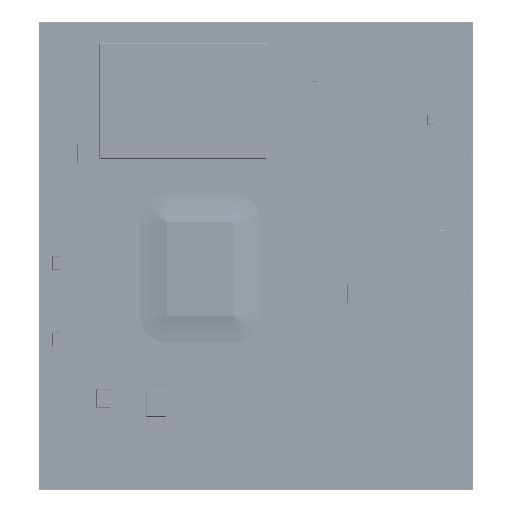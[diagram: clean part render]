
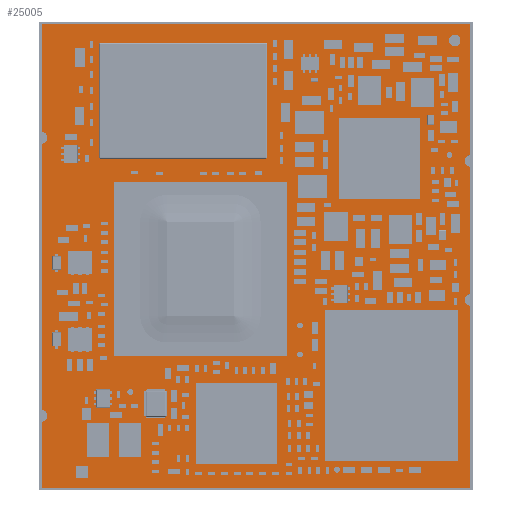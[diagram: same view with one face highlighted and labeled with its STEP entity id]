
A CAD part, top view. The second image highlights one B-rep face of the part: STEP entity #25005.
In plain terms, the highlighted planar face has unit normal (0, 0, 1).
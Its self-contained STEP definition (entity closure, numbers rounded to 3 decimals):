
#25005=ADVANCED_FACE('',(#45299),#45300,.T.);
#45299=FACE_OUTER_BOUND('',#64811,.T.);
#45300=PLANE('',#64812);
#64811=EDGE_LOOP('',(#99181,#99182,#99183,#99184,#99185,#99186,#99187,#99188,#99189,#99190,#99191,#99192));
#64812=AXIS2_PLACEMENT_3D('',#99193,#99194,#99195);
#99181=ORIENTED_EDGE('',*,*,#111659,.F.);
#99182=ORIENTED_EDGE('',*,*,#111660,.F.);
#99183=ORIENTED_EDGE('',*,*,#111661,.F.);
#99184=ORIENTED_EDGE('',*,*,#111662,.F.);
#99185=ORIENTED_EDGE('',*,*,#111663,.F.);
#99186=ORIENTED_EDGE('',*,*,#111664,.F.);
#99187=ORIENTED_EDGE('',*,*,#111665,.F.);
#99188=ORIENTED_EDGE('',*,*,#111666,.F.);
#99189=ORIENTED_EDGE('',*,*,#111667,.F.);
#99190=ORIENTED_EDGE('',*,*,#111668,.F.);
#99191=ORIENTED_EDGE('',*,*,#111669,.F.);
#99192=ORIENTED_EDGE('',*,*,#111670,.F.);
#99193=CARTESIAN_POINT('',(18.5,20.003,1.926));
#99194=DIRECTION('',(0.0,0.0,1.0));
#99195=DIRECTION('',(1.0,0.0,0.0));
#111659=EDGE_CURVE('',#128423,#128424,#128425,.T.);
#111660=EDGE_CURVE('',#128426,#128423,#128427,.T.);
#111661=EDGE_CURVE('',#128428,#128426,#128429,.T.);
#111662=EDGE_CURVE('',#128430,#128428,#128431,.T.);
#111663=EDGE_CURVE('',#128432,#128430,#128433,.T.);
#111664=EDGE_CURVE('',#128434,#128432,#128435,.T.);
#111665=EDGE_CURVE('',#128436,#128434,#128437,.T.);
#111666=EDGE_CURVE('',#128438,#128436,#128439,.T.);
#111667=EDGE_CURVE('',#128440,#128438,#128441,.T.);
#111668=EDGE_CURVE('',#128442,#128440,#128443,.T.);
#111669=EDGE_CURVE('',#128444,#128442,#128445,.T.);
#111670=EDGE_CURVE('',#128424,#128444,#128446,.T.);
#128423=VERTEX_POINT('',#147956);
#128424=VERTEX_POINT('',#147957);
#128425=CIRCLE('',#147958,0.5);
#128426=VERTEX_POINT('',#147959);
#128427=LINE('',#147960,#147961);
#128428=VERTEX_POINT('',#147962);
#128429=LINE('',#147963,#147964);
#128430=VERTEX_POINT('',#147965);
#128431=LINE('',#147966,#147967);
#128432=VERTEX_POINT('',#147968);
#128433=CIRCLE('',#147969,0.5);
#128434=VERTEX_POINT('',#147970);
#128435=LINE('',#147971,#147972);
#128436=VERTEX_POINT('',#147973);
#128437=CIRCLE('',#147974,0.5);
#128438=VERTEX_POINT('',#147975);
#128439=LINE('',#147976,#147977);
#128440=VERTEX_POINT('',#147978);
#128441=LINE('',#147979,#147980);
#128442=VERTEX_POINT('',#147981);
#128443=LINE('',#147982,#147983);
#128444=VERTEX_POINT('',#147984);
#128445=CIRCLE('',#147985,0.5);
#128446=LINE('',#147986,#147987);
#147956=CARTESIAN_POINT('',(37.0,28.7,1.926));
#147957=CARTESIAN_POINT('',(37.0,27.7,1.926));
#147958=AXIS2_PLACEMENT_3D('',#162822,#162823,#162824);
#147959=CARTESIAN_POINT('',(37.0,40.0,1.926));
#147960=CARTESIAN_POINT('',(37.0,34.35,1.926));
#147961=VECTOR('',#162825,1.0);
#147962=CARTESIAN_POINT('',(0.0,40.0,1.926));
#147963=CARTESIAN_POINT('',(18.5,40.0,1.926));
#147964=VECTOR('',#162826,1.0);
#147965=CARTESIAN_POINT('',(0.,30.7,1.926));
#147966=CARTESIAN_POINT('',(0.,35.35,1.926));
#147967=VECTOR('',#162827,1.0);
#147968=CARTESIAN_POINT('',(0.0,29.7,1.926));
#147969=AXIS2_PLACEMENT_3D('',#162828,#162829,#162830);
#147970=CARTESIAN_POINT('',(0.,6.7,1.926));
#147971=CARTESIAN_POINT('',(0.,18.2,1.926));
#147972=VECTOR('',#162831,1.0);
#147973=CARTESIAN_POINT('',(0.0,5.7,1.926));
#147974=AXIS2_PLACEMENT_3D('',#162832,#162833,#162834);
#147975=CARTESIAN_POINT('',(0.0,0.0,1.926));
#147976=CARTESIAN_POINT('',(0.0,2.85,1.926));
#147977=VECTOR('',#162835,1.0);
#147978=CARTESIAN_POINT('',(37.0,0.0,1.926));
#147979=CARTESIAN_POINT('',(18.5,0.0,1.926));
#147980=VECTOR('',#162836,1.0);
#147981=CARTESIAN_POINT('',(37.0,15.7,1.926));
#147982=CARTESIAN_POINT('',(37.0,7.85,1.926));
#147983=VECTOR('',#162837,1.0);
#147984=CARTESIAN_POINT('',(37.0,16.7,1.926));
#147985=AXIS2_PLACEMENT_3D('',#162838,#162839,#162840);
#147986=CARTESIAN_POINT('',(37.0,22.2,1.926));
#147987=VECTOR('',#162841,1.0);
#162822=CARTESIAN_POINT('',(37.0,28.2,1.926));
#162823=DIRECTION('',(0.0,-0.0,1.0));
#162824=DIRECTION('',(0.0,1.0,0.0));
#162825=DIRECTION('',(0.0,-1.0,0.0));
#162826=DIRECTION('',(1.0,0.0,0.0));
#162827=DIRECTION('',(0.,1.0,0.0));
#162828=CARTESIAN_POINT('',(0.0,30.2,1.926));
#162829=DIRECTION('',(0.0,0.0,1.0));
#162830=DIRECTION('',(0.0,-1.0,0.0));
#162831=DIRECTION('',(0.,1.0,0.0));
#162832=CARTESIAN_POINT('',(0.0,6.2,1.926));
#162833=DIRECTION('',(0.0,0.0,1.0));
#162834=DIRECTION('',(0.0,-1.0,0.0));
#162835=DIRECTION('',(0.0,1.0,0.0));
#162836=DIRECTION('',(-1.0,0.0,0.0));
#162837=DIRECTION('',(0.0,-1.0,0.0));
#162838=CARTESIAN_POINT('',(37.0,16.2,1.926));
#162839=DIRECTION('',(0.0,-0.0,1.0));
#162840=DIRECTION('',(0.0,1.0,0.0));
#162841=DIRECTION('',(0.0,-1.0,0.0));
